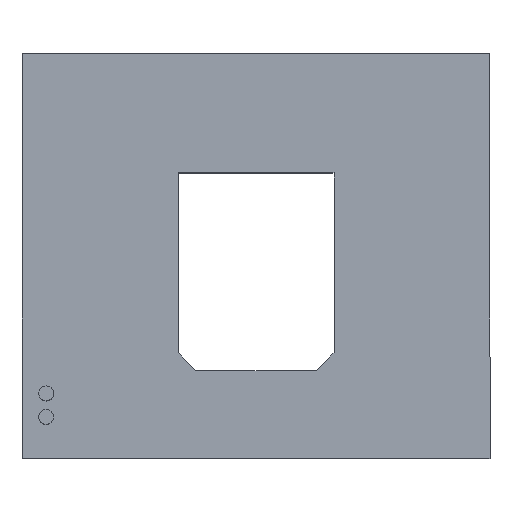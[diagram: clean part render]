
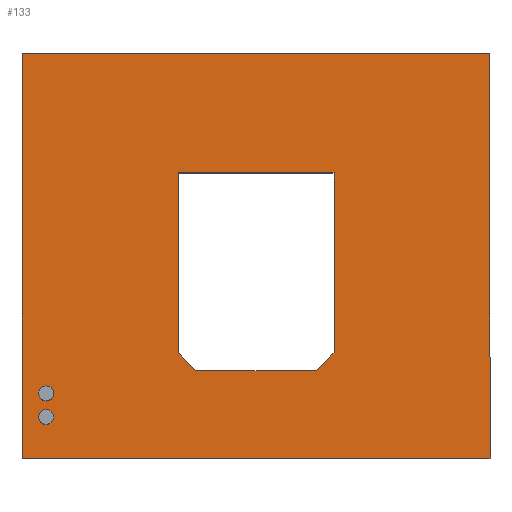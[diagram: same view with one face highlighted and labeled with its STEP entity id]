
A CAD part, top view. The second image highlights one B-rep face of the part: STEP entity #133.
In plain terms, the highlighted planar face has unit normal (0, 0, 1).
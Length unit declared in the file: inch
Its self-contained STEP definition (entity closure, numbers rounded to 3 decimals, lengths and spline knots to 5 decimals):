
#1 = EDGE_LOOP ( 'NONE', ( #463, #70 ) ) ;
#3 = CARTESIAN_POINT ( 'NONE',  ( -1.82395, 0.34489, 0.655 ) ) ;
#4 = CIRCLE ( 'NONE', #464, 0.0625 ) ;
#5 = VECTOR ( 'NONE', #64, 39.37008 ) ;
#6 = VERTEX_POINT ( 'NONE', #170 ) ;
#8 = LINE ( 'NONE', #254, #552 ) ;
#15 = LINE ( 'NONE', #31, #302 ) ;
#18 = CARTESIAN_POINT ( 'NONE',  ( 0.655, 2.396, 0.655 ) ) ;
#24 = CARTESIAN_POINT ( 'NONE',  ( -1.76145, 0.34489, 0.655 ) ) ;
#28 = VERTEX_POINT ( 'NONE', #408 ) ;
#31 = CARTESIAN_POINT ( 'NONE',  ( -0.655, 2.396, 0.655 ) ) ;
#33 = VERTEX_POINT ( 'NONE', #166 ) ;
#40 = VECTOR ( 'NONE', #451, 39.37008 ) ;
#42 = FACE_OUTER_BOUND ( 'NONE', #109, .T. ) ;
#44 = LINE ( 'NONE', #296, #239 ) ;
#47 = EDGE_CURVE ( 'NONE', #28, #167, #344, .T. ) ;
#50 = EDGE_CURVE ( 'NONE', #167, #444, #287, .T. ) ;
#56 = DIRECTION ( 'NONE',  ( 0., 0., 1. ) ) ;
#60 = CARTESIAN_POINT ( 'NONE',  ( -1.76145, 0.34489, 0.655 ) ) ;
#64 = DIRECTION ( 'NONE',  ( 0.703, 0.711, 0. ) ) ;
#70 = ORIENTED_EDGE ( 'NONE', *, *, #424, .F. ) ;
#71 = VECTOR ( 'NONE', #357, 39.37008 ) ;
#89 = ORIENTED_EDGE ( 'NONE', *, *, #50, .F. ) ;
#91 = DIRECTION ( 'NONE',  ( 0., 1., 0. ) ) ;
#96 = CARTESIAN_POINT ( 'NONE',  ( -1.965, 3.4, 0.655 ) ) ;
#106 = VERTEX_POINT ( 'NONE', #595 ) ;
#108 = LINE ( 'NONE', #227, #575 ) ;
#109 = EDGE_LOOP ( 'NONE', ( #349, #355, #181, #466 ) ) ;
#111 = CARTESIAN_POINT ( 'NONE',  ( -0.50665, 0.736, 0.655 ) ) ;
#113 = VERTEX_POINT ( 'NONE', #120 ) ;
#114 = EDGE_CURVE ( 'NONE', #444, #106, #15, .T. ) ;
#120 = CARTESIAN_POINT ( 'NONE',  ( 1.965, 3.4, 0.655 ) ) ;
#123 = CARTESIAN_POINT ( 'NONE',  ( 0.655, 2.396, 0.655 ) ) ;
#125 = VECTOR ( 'NONE', #427, 39.37008 ) ;
#133 = ADVANCED_FACE ( 'NONE', ( #157, #284, #42, #366 ), #416, .T. ) ;
#146 = EDGE_CURVE ( 'NONE', #106, #380, #198, .T. ) ;
#152 = AXIS2_PLACEMENT_3D ( 'NONE', #588, #258, #542 ) ;
#155 = DIRECTION ( 'NONE',  ( 0., 0., 1. ) ) ;
#157 = FACE_BOUND ( 'NONE', #1, .T. ) ;
#160 = EDGE_CURVE ( 'NONE', #471, #214, #518, .T. ) ;
#166 = CARTESIAN_POINT ( 'NONE',  ( 1.965, 0., 0.655 ) ) ;
#167 = VERTEX_POINT ( 'NONE', #18 ) ;
#170 = CARTESIAN_POINT ( 'NONE',  ( 0.50665, 0.736, 0.655 ) ) ;
#172 = ORIENTED_EDGE ( 'NONE', *, *, #160, .F. ) ;
#181 = ORIENTED_EDGE ( 'NONE', *, *, #572, .T. ) ;
#196 = CIRCLE ( 'NONE', #337, 0.0625 ) ;
#198 = LINE ( 'NONE', #544, #502 ) ;
#202 = CARTESIAN_POINT ( 'NONE',  ( -1.965, 3.4, 0.655 ) ) ;
#214 = VERTEX_POINT ( 'NONE', #586 ) ;
#227 = CARTESIAN_POINT ( 'NONE',  ( 1.965, 3.4, 0.655 ) ) ;
#232 = CARTESIAN_POINT ( 'NONE',  ( -1.69895, 0.34489, 0.655 ) ) ;
#237 = AXIS2_PLACEMENT_3D ( 'NONE', #24, #581, #252 ) ;
#239 = VECTOR ( 'NONE', #242, 39.37008 ) ;
#242 = DIRECTION ( 'NONE',  ( -1., 0., 0. ) ) ;
#252 = DIRECTION ( 'NONE',  ( 1., 0., 0. ) ) ;
#254 = CARTESIAN_POINT ( 'NONE',  ( -0.50665, 0.736, 0.655 ) ) ;
#258 = DIRECTION ( 'NONE',  ( 0., 0., 1. ) ) ;
#268 = ORIENTED_EDGE ( 'NONE', *, *, #114, .F. ) ;
#276 = EDGE_CURVE ( 'NONE', #380, #6, #8, .T. ) ;
#280 = VERTEX_POINT ( 'NONE', #492 ) ;
#284 = FACE_BOUND ( 'NONE', #454, .T. ) ;
#286 = EDGE_CURVE ( 'NONE', #563, #532, #505, .T. ) ;
#287 = LINE ( 'NONE', #364, #40 ) ;
#292 = DIRECTION ( 'NONE',  ( 0.703, -0.711, 0. ) ) ;
#296 = CARTESIAN_POINT ( 'NONE',  ( -1.965, 3.4, 0.655 ) ) ;
#297 = EDGE_CURVE ( 'NONE', #280, #33, #313, .T. ) ;
#300 = DIRECTION ( 'NONE',  ( 1., 0., 0. ) ) ;
#302 = VECTOR ( 'NONE', #543, 39.37008 ) ;
#312 = ORIENTED_EDGE ( 'NONE', *, *, #47, .F. ) ;
#313 = LINE ( 'NONE', #401, #71 ) ;
#337 = AXIS2_PLACEMENT_3D ( 'NONE', #60, #351, #300 ) ;
#343 = DIRECTION ( 'NONE',  ( 1., 0., 0. ) ) ;
#344 = LINE ( 'NONE', #123, #411 ) ;
#349 = ORIENTED_EDGE ( 'NONE', *, *, #547, .T. ) ;
#351 = DIRECTION ( 'NONE',  ( 0., 0., 1. ) ) ;
#352 = AXIS2_PLACEMENT_3D ( 'NONE', #477, #155, #432 ) ;
#355 = ORIENTED_EDGE ( 'NONE', *, *, #297, .T. ) ;
#357 = DIRECTION ( 'NONE',  ( 1., 0., 0. ) ) ;
#364 = CARTESIAN_POINT ( 'NONE',  ( -0.655, 2.396, 0.655 ) ) ;
#365 = EDGE_CURVE ( 'NONE', #6, #28, #487, .T. ) ;
#366 = FACE_BOUND ( 'NONE', #570, .T. ) ;
#380 = VERTEX_POINT ( 'NONE', #111 ) ;
#391 = ORIENTED_EDGE ( 'NONE', *, *, #276, .F. ) ;
#392 = CARTESIAN_POINT ( 'NONE',  ( -1.76145, 0.54319, 0.655 ) ) ;
#397 = CARTESIAN_POINT ( 'NONE',  ( 0.655, 0.886, 0.655 ) ) ;
#401 = CARTESIAN_POINT ( 'NONE',  ( -1.965, 0., 0.655 ) ) ;
#408 = CARTESIAN_POINT ( 'NONE',  ( 0.655, 0.886, 0.655 ) ) ;
#411 = VECTOR ( 'NONE', #414, 39.37008 ) ;
#414 = DIRECTION ( 'NONE',  ( 0., 1., 0. ) ) ;
#416 = PLANE ( 'NONE',  #352 ) ;
#424 = EDGE_CURVE ( 'NONE', #532, #563, #196, .T. ) ;
#427 = DIRECTION ( 'NONE',  ( 0., -1., 0. ) ) ;
#432 = DIRECTION ( 'NONE',  ( 1., 0., 0. ) ) ;
#442 = VERTEX_POINT ( 'NONE', #202 ) ;
#444 = VERTEX_POINT ( 'NONE', #574 ) ;
#451 = DIRECTION ( 'NONE',  ( -1., 0., 0. ) ) ;
#454 = EDGE_LOOP ( 'NONE', ( #172, #458 ) ) ;
#458 = ORIENTED_EDGE ( 'NONE', *, *, #482, .F. ) ;
#463 = ORIENTED_EDGE ( 'NONE', *, *, #286, .F. ) ;
#464 = AXIS2_PLACEMENT_3D ( 'NONE', #392, #56, #343 ) ;
#466 = ORIENTED_EDGE ( 'NONE', *, *, #485, .T. ) ;
#468 = ORIENTED_EDGE ( 'NONE', *, *, #146, .F. ) ;
#471 = VERTEX_POINT ( 'NONE', #483 ) ;
#477 = CARTESIAN_POINT ( 'NONE',  ( 0., 0., 0.655 ) ) ;
#480 = LINE ( 'NONE', #96, #125 ) ;
#482 = EDGE_CURVE ( 'NONE', #214, #471, #4, .T. ) ;
#483 = CARTESIAN_POINT ( 'NONE',  ( -1.82395, 0.54319, 0.655 ) ) ;
#485 = EDGE_CURVE ( 'NONE', #113, #442, #44, .T. ) ;
#487 = LINE ( 'NONE', #397, #5 ) ;
#492 = CARTESIAN_POINT ( 'NONE',  ( -1.965, 0., 0.655 ) ) ;
#502 = VECTOR ( 'NONE', #292, 39.37008 ) ;
#505 = CIRCLE ( 'NONE', #237, 0.0625 ) ;
#518 = CIRCLE ( 'NONE', #152, 0.0625 ) ;
#532 = VERTEX_POINT ( 'NONE', #232 ) ;
#542 = DIRECTION ( 'NONE',  ( 1., 0., 0. ) ) ;
#543 = DIRECTION ( 'NONE',  ( 0., -1., 0. ) ) ;
#544 = CARTESIAN_POINT ( 'NONE',  ( -0.655, 0.886, 0.655 ) ) ;
#547 = EDGE_CURVE ( 'NONE', #442, #280, #480, .T. ) ;
#551 = ORIENTED_EDGE ( 'NONE', *, *, #365, .F. ) ;
#552 = VECTOR ( 'NONE', #584, 39.37008 ) ;
#563 = VERTEX_POINT ( 'NONE', #3 ) ;
#570 = EDGE_LOOP ( 'NONE', ( #468, #268, #89, #312, #551, #391 ) ) ;
#572 = EDGE_CURVE ( 'NONE', #33, #113, #108, .T. ) ;
#574 = CARTESIAN_POINT ( 'NONE',  ( -0.655, 2.396, 0.655 ) ) ;
#575 = VECTOR ( 'NONE', #91, 39.37008 ) ;
#581 = DIRECTION ( 'NONE',  ( 0., 0., 1. ) ) ;
#584 = DIRECTION ( 'NONE',  ( 1., 0., 0. ) ) ;
#586 = CARTESIAN_POINT ( 'NONE',  ( -1.69895, 0.54319, 0.655 ) ) ;
#588 = CARTESIAN_POINT ( 'NONE',  ( -1.76145, 0.54319, 0.655 ) ) ;
#595 = CARTESIAN_POINT ( 'NONE',  ( -0.655, 0.886, 0.655 ) ) ;
